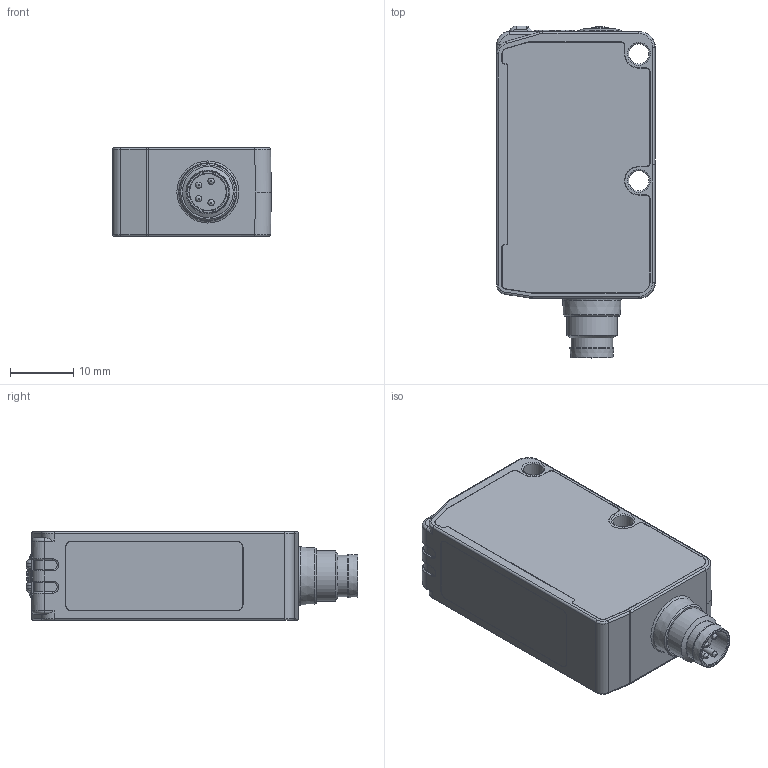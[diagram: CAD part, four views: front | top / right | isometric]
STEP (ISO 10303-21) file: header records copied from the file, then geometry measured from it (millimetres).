
FILE_DESCRIPTION(/* description */ (''),/* implementation_level */ '2;1');
FILE_NAME(/* name */ 'DSD-1028.stp',/* time_stamp */ '2020-09-23T09:01:38+02:00',/* author */ (''),/* organization */ (''),/* preprocessor_version */ 'ST-DEVELOPER v16.7',/* originating_system */ 'SIEMENS PLM Software NX 12.0',/* authorisation */ '');
FILE_SCHEMA (('AUTOMOTIVE_DESIGN { 1 0 10303 214 3 1 1 1 }'));
Length unit declared in the file: millimetre
Products named in the file (1): MBra179CE7913k1n
Bounding box: 25 x 52.3 x 14 mm (x, y, z)
Volume: 14730.1 mm3; surface area: 4752.5 mm2
Topology: 1 solids, 2 shells, 349 faces, 856 edges, 521 vertices
Faces by surface type: cylinder 147, plane 105, bspline 58, torus 22, sphere 8, cone 7, extrusion 2
Full cylindrical faces by diameter (mm): 1 x4, 2.95 x1, 3.2 x2, 5.77 x1, 6.52 x1, 6.9 x1, 8 x1
Entity records: 12905 total; most frequent: CARTESIAN_POINT 4153, DIRECTION 1670, ORIENTED_EDGE 1586, EDGE_CURVE 793, AXIS2_PLACEMENT_3D 645, VERTEX_POINT 510, EDGE_LOOP 415, VECTOR 380
